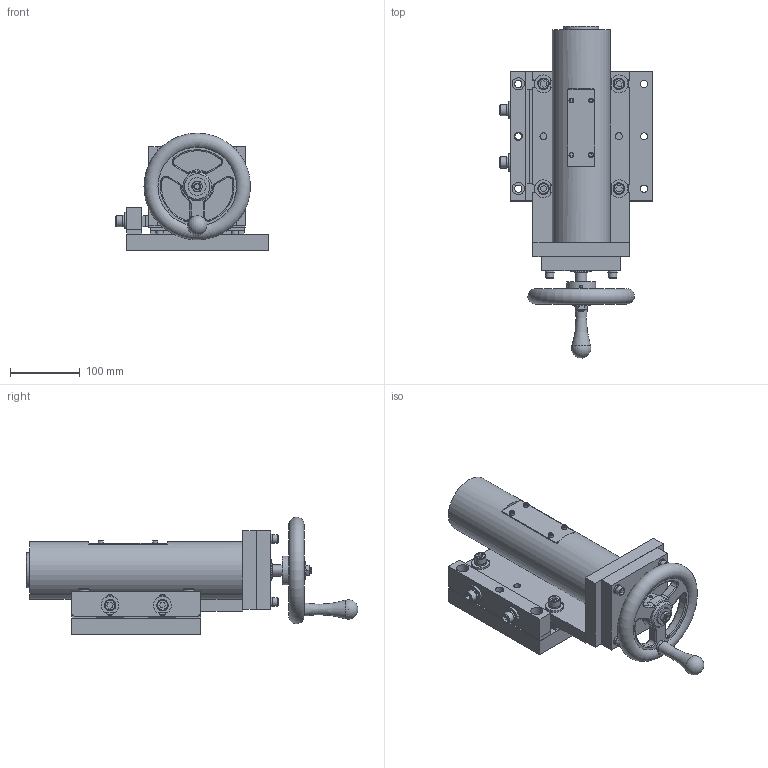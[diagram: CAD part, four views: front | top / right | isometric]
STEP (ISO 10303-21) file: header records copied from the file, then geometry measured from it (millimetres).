
FILE_DESCRIPTION(/* description */ (''),/* implementation_level */ '2;1');
FILE_NAME(/* name */ 'C:\Vault Workspace\CAD\Welker\Shot Pin\HP5\MANUAL\HP5-M0M200000.stp',/* time_stamp */ '2020-10-22T11:03:34-04:00',/* author */ ('KPL'),/* organization */ (''),/* preprocessor_version */ 'ST-DEVELOPER v18.1',/* originating_system */ 'Autodesk Inventor 2020',/* authorisation */ '');
FILE_SCHEMA (('AUTOMOTIVE_DESIGN { 1 0 10303 214 3 1 1 }'));
Length unit declared in the file: millimetre
Products named in the file (1): HP5ML01_Shrinkwrap_1
Bounding box: 218.1 x 474.77 x 168.19 mm (x, y, z)
Volume: 3908076.5 mm3; surface area: 710319.6 mm2
Topology: 61 solids, 61 shells, 782 faces, 1834 edges, 1229 vertices
Faces by surface type: plane 423, cylinder 237, cone 80, torus 41, sphere 1
Full cylindrical faces by diameter (mm): 1.7 x2, 3.242 x4, 4 x5, 4.134 x8, 4.5 x4, 4.917 x4, 6 x1, 6.35 x2, 6.5 x2, 6.647 x2, 6.782 x4, 7 x4, 7.938 x4, 8.376 x9, 8.5 x4, 8.7 x4, 9.525 x1, 9.58 x1, 10 x11, 10.1 x6, 10.319 x1, 10.5 x8, 10.7 x6, 10.8 x1, 11 x6, 11.5 x1, 11.887 x4, 12 x7, 12.7 x1, 13.5 x4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
Entity records: 24038 total; most frequent: CARTESIAN_POINT 4259, DIRECTION 4073, ORIENTED_EDGE 3612, EDGE_CURVE 1806, AXIS2_PLACEMENT_3D 1531, VERTEX_POINT 1229, EDGE_LOOP 1019, LINE 1011
